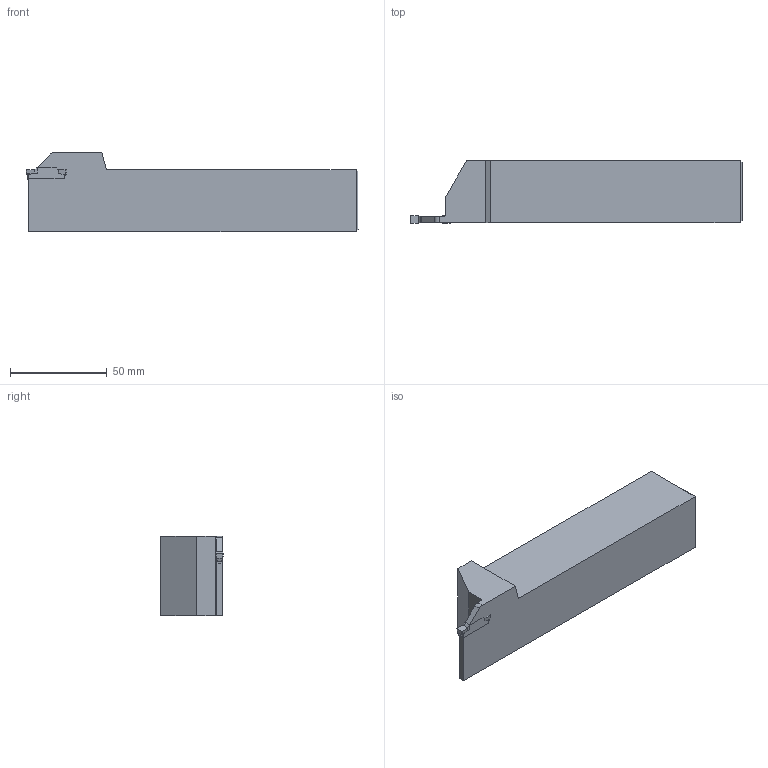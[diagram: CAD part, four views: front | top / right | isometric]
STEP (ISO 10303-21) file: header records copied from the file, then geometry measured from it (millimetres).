
FILE_DESCRIPTION(/* description */ (''),/* implementation_level */ '2;1');
FILE_NAME(/* name */ 'MGEHR3232-4-HAAS.stp',/* time_stamp */ '2021-10-14T11:24:53+09:00',/* author */ (''),/* organization */ (''),/* preprocessor_version */ 'ST-DEVELOPER v11',/* originating_system */ 'SIEMENS UGS NX 6.0',/* authorisation */ '');
FILE_SCHEMA (('CONFIG_CONTROL_DESIGN'));
Length unit declared in the file: millimetre
Products named in the file (1): user254Fxyj0
Bounding box: 171.25 x 32.4 x 41 mm (x, y, z)
Volume: 160908.2 mm3; surface area: 23609 mm2
Topology: 2 solids, 2 shells, 56 faces, 148 edges, 96 vertices
Faces by surface type: plane 43, cylinder 13
Entity records: 1814 total; most frequent: CARTESIAN_POINT 325, ORIENTED_EDGE 296, DIRECTION 284, EDGE_CURVE 148, LINE 118, VECTOR 118, VERTEX_POINT 96, AXIS2_PLACEMENT_3D 83
